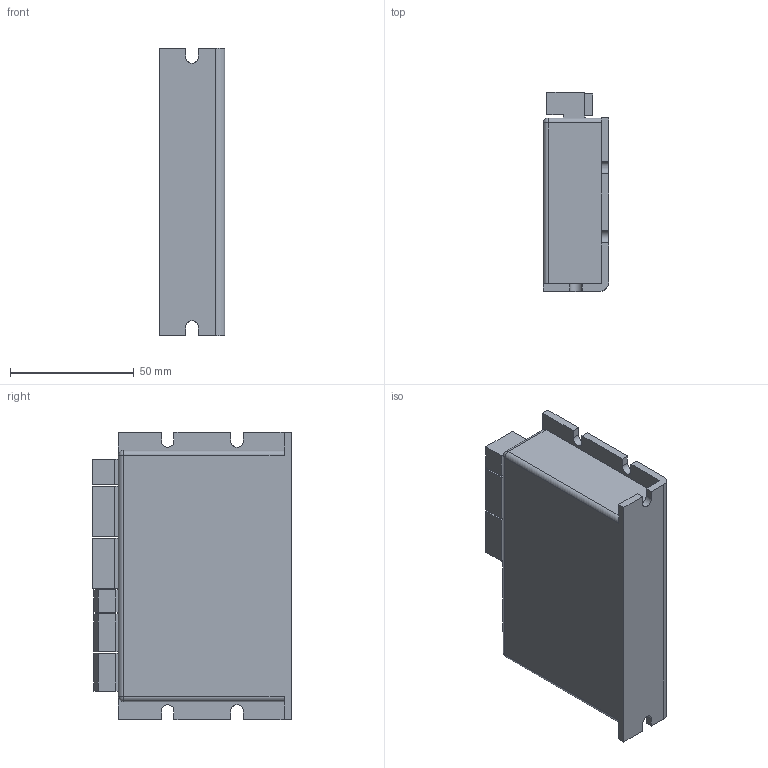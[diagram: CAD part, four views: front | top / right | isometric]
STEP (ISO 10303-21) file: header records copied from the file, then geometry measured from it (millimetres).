
FILE_DESCRIPTION((''),'2;1');
FILE_NAME('TD545-B','2024-06-23T17:19:29',('jason'),(''),'CREO PARAMETRIC BY PTC INC, 2022073','CREO PARAMETRIC BY PTC INC, 2022073','');
FILE_SCHEMA(('CONFIG_CONTROL_DESIGN'));
Length unit declared in the file: millimetre
Products named in the file (1): TD545-B
Bounding box: 26.6 x 80.41 x 116 mm (x, y, z)
Volume: 203498.7 mm3; surface area: 29956.4 mm2
Topology: 1 solids, 1 shells, 95 faces, 255 edges, 168 vertices
Faces by surface type: plane 81, cylinder 12, sphere 2
Entity records: 2963 total; most frequent: CARTESIAN_POINT 518, ORIENTED_EDGE 510, DIRECTION 469, EDGE_CURVE 255, VECTOR 231, LINE 231, VERTEX_POINT 168, AXIS2_PLACEMENT_3D 119
